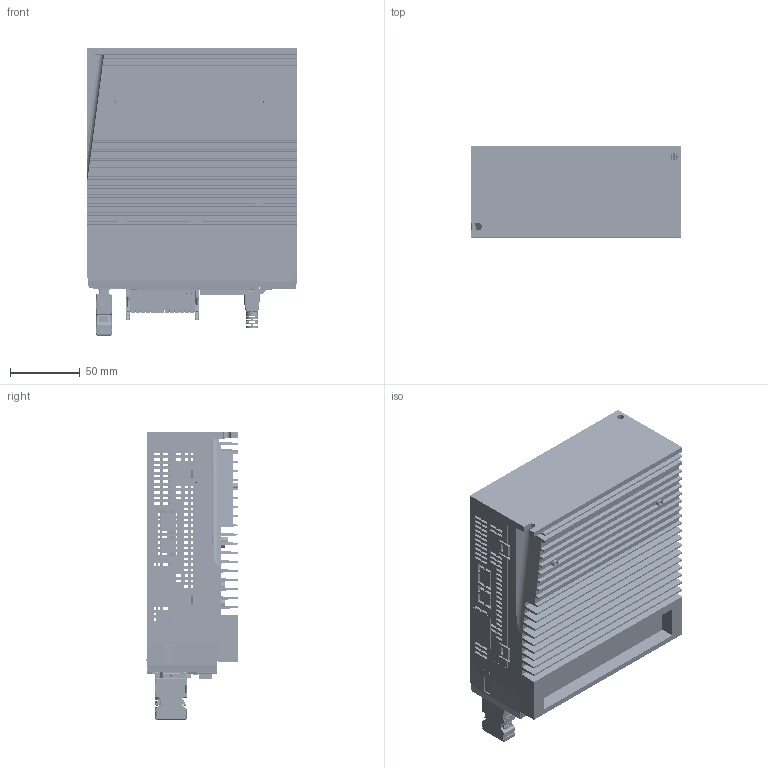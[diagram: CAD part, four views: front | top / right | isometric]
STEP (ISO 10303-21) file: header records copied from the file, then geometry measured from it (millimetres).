
FILE_DESCRIPTION((''),'2;1');
FILE_NAME('M56S-24A5ECN','2023-08-15T19:10:33',('ms27526'),(''),'CREO PARAMETRIC BY PTC INC, 2018100','CREO PARAMETRIC BY PTC INC, 2018100','');
FILE_SCHEMA(('CONFIG_CONTROL_DESIGN'));
Products named in the file (1): M56S-24A5ECN
Bounding box: 150.2 x 65.2 x 205.43 mm (x, y, z)
Volume: 353669 mm3; surface area: 356251.8 mm2
Topology: 18 solids, 84 shells, 15904 faces, 43472 edges, 27278 vertices
Faces by surface type: plane 8800, cylinder 4588, cone 1144, bspline 709, torus 447, sphere 178, extrusion 38
Entity records: 556562 total; most frequent: CARTESIAN_POINT 159952, ORIENTED_EDGE 84993, DIRECTION 78172, EDGE_CURVE 43002, VECTOR 29004, LINE 28966, VERTEX_POINT 27278, AXIS2_PLACEMENT_3D 24584
